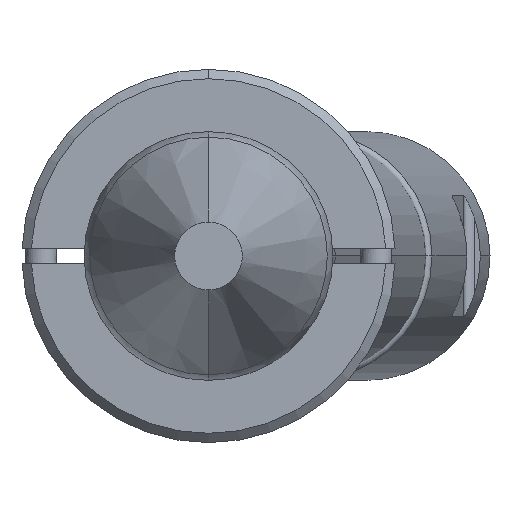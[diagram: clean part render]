
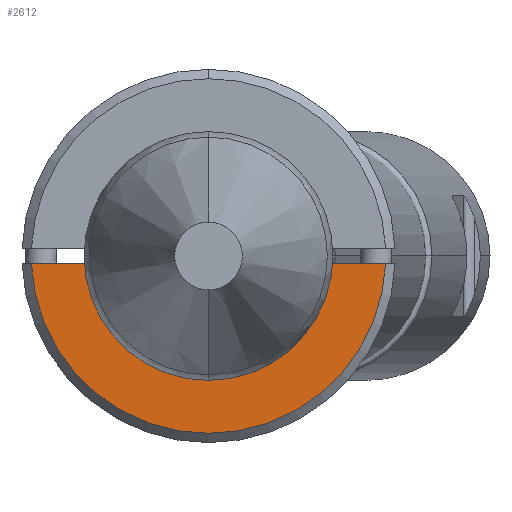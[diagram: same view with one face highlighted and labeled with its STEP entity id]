
A CAD part, front view. The second image highlights one B-rep face of the part: STEP entity #2612.
In plain terms, the highlighted planar face has unit normal (0, -1, 0).
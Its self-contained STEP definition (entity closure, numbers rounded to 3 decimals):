
#95 = CARTESIAN_POINT ( 'NONE',  ( -6., -6., -0.25 ) ) ;
#212 = DIRECTION ( 'NONE',  ( 0., 0., -1. ) ) ;
#242 = CARTESIAN_POINT ( 'NONE',  ( -3.19, -6., -0.25 ) ) ;
#291 = EDGE_CURVE ( 'NONE', #2885, #780, #1476, .T. ) ;
#408 = AXIS2_PLACEMENT_3D ( 'NONE', #991, #3132, #1939 ) ;
#454 = EDGE_CURVE ( 'NONE', #2885, #827, #1034, .T. ) ;
#461 = CIRCLE ( 'NONE', #3827, 3.2 ) ;
#465 = CARTESIAN_POINT ( 'NONE',  ( 0., -6., 0. ) ) ;
#670 = FACE_OUTER_BOUND ( 'NONE', #3308, .T. ) ;
#780 = VERTEX_POINT ( 'NONE', #1140 ) ;
#827 = VERTEX_POINT ( 'NONE', #242 ) ;
#888 = DIRECTION ( 'NONE',  ( 0., 1., 0. ) ) ;
#991 = CARTESIAN_POINT ( 'NONE',  ( -6., -6., 0. ) ) ;
#1034 = LINE ( 'NONE', #1052, #1511 ) ;
#1052 = CARTESIAN_POINT ( 'NONE',  ( -6., -6., -0.25 ) ) ;
#1057 = VECTOR ( 'NONE', #3231, 1000. ) ;
#1140 = CARTESIAN_POINT ( 'NONE',  ( 5.695, -6., -0.25 ) ) ;
#1151 = ORIENTED_EDGE ( 'NONE', *, *, #1763, .F. ) ;
#1168 = DIRECTION ( 'NONE',  ( 0., 0., -1. ) ) ;
#1225 = CIRCLE ( 'NONE', #3802, 3.2 ) ;
#1227 = CARTESIAN_POINT ( 'NONE',  ( 3.19, -6., -0.25 ) ) ;
#1340 = AXIS2_PLACEMENT_3D ( 'NONE', #2168, #3117, #1168 ) ;
#1378 = ORIENTED_EDGE ( 'NONE', *, *, #454, .F. ) ;
#1448 = EDGE_CURVE ( 'NONE', #3348, #827, #461, .T. ) ;
#1476 = CIRCLE ( 'NONE', #1340, 5.7 ) ;
#1511 = VECTOR ( 'NONE', #2953, 1000. ) ;
#1544 = CARTESIAN_POINT ( 'NONE',  ( 0., -6., 0. ) ) ;
#1763 = EDGE_CURVE ( 'NONE', #2133, #780, #2994, .T. ) ;
#1811 = ORIENTED_EDGE ( 'NONE', *, *, #291, .T. ) ;
#1939 = DIRECTION ( 'NONE',  ( 0., 0., -1. ) ) ;
#2133 = VERTEX_POINT ( 'NONE', #1227 ) ;
#2164 = ORIENTED_EDGE ( 'NONE', *, *, #3684, .T. ) ;
#2168 = CARTESIAN_POINT ( 'NONE',  ( 0., -6., 0. ) ) ;
#2200 = PLANE ( 'NONE',  #408 ) ;
#2612 = ADVANCED_FACE ( 'NONE', ( #670 ), #2200, .T. ) ;
#2804 = ORIENTED_EDGE ( 'NONE', *, *, #1448, .T. ) ;
#2816 = DIRECTION ( 'NONE',  ( 0., 0., -1. ) ) ;
#2885 = VERTEX_POINT ( 'NONE', #3470 ) ;
#2953 = DIRECTION ( 'NONE',  ( 1., 0., 0. ) ) ;
#2994 = LINE ( 'NONE', #95, #1057 ) ;
#3007 = DIRECTION ( 'NONE',  ( 0., 1., 0. ) ) ;
#3117 = DIRECTION ( 'NONE',  ( 0., -1., 0. ) ) ;
#3132 = DIRECTION ( 'NONE',  ( 0., -1., 0. ) ) ;
#3231 = DIRECTION ( 'NONE',  ( 1., 0., 0. ) ) ;
#3308 = EDGE_LOOP ( 'NONE', ( #1378, #1811, #1151, #2164, #2804 ) ) ;
#3348 = VERTEX_POINT ( 'NONE', #3570 ) ;
#3470 = CARTESIAN_POINT ( 'NONE',  ( -5.695, -6., -0.25 ) ) ;
#3570 = CARTESIAN_POINT ( 'NONE',  ( 0., -6., -3.2 ) ) ;
#3684 = EDGE_CURVE ( 'NONE', #2133, #3348, #1225, .T. ) ;
#3802 = AXIS2_PLACEMENT_3D ( 'NONE', #1544, #888, #2816 ) ;
#3827 = AXIS2_PLACEMENT_3D ( 'NONE', #465, #3007, #212 ) ;
